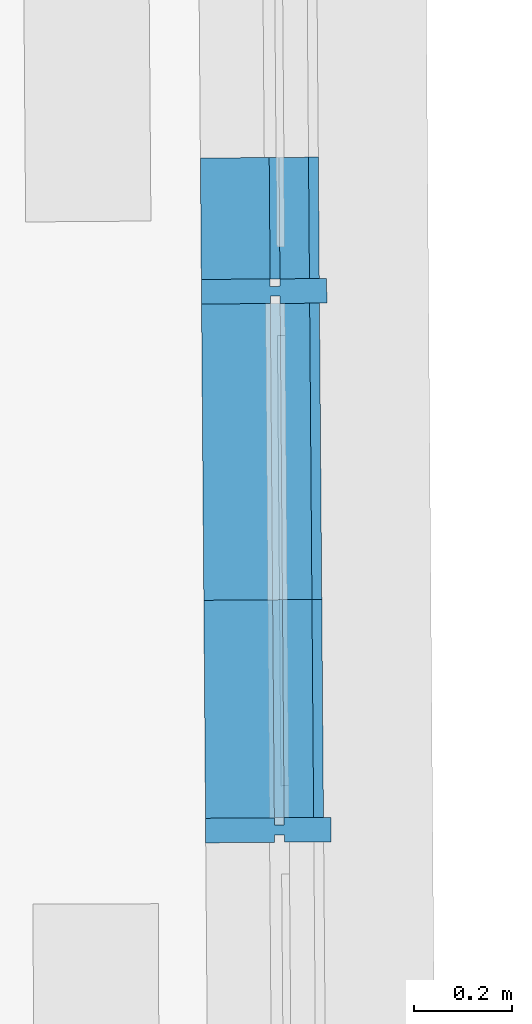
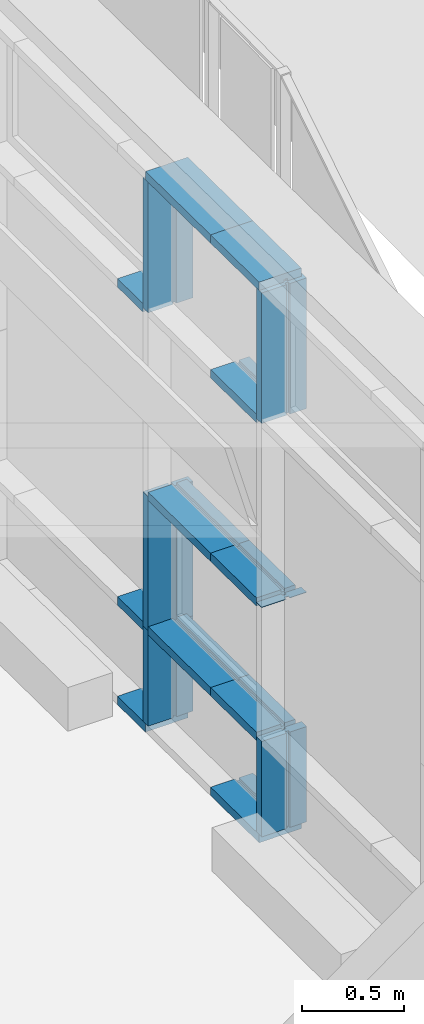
# One storey, part 120 of 158: 18 building element parts, 1 element without a shape of its own.
"""IFC2X3 building model written with IfcOpenShell, lengths in metres."""

from ifc_helpers import new_model, entity, si_unit, converted_unit, derived_unit, money_unit, direction, frame, origin_with_axes, place, context, subcontext, project, spatial, faceted_brep, material, type_object, element, aggregate, save


model = new_model("IFC2X3")

# Units and contexts
model_context = context("Model", 3, precision=1e-05, world=origin_with_axes(), true_north=direction((0.0, 1.0)))
body_context = subcontext(model_context, "Body", "Model", "MODEL_VIEW")
ifc_project = project(units=[si_unit("LENGTHUNIT", "METRE"), si_unit("AREAUNIT", "SQUARE_METRE"), si_unit("VOLUMEUNIT", "CUBIC_METRE"), converted_unit("PLANEANGLEUNIT", "DEGREE", entity("IfcPlaneAngleMeasure", 0.0174532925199), si_unit("PLANEANGLEUNIT", "RADIAN"), dimensions=[0, 0, 0, 0, 0, 0, 0]), money_unit("EUR"), converted_unit("TIMEUNIT", "Year", entity("IfcTimeMeasure", 31556926.0), si_unit("TIMEUNIT", "SECOND"), dimensions=[0, 0, 1, 0, 0, 0, 0]), si_unit("MASSUNIT", "GRAM", prefix="KILO"), si_unit("THERMODYNAMICTEMPERATUREUNIT", "DEGREE_CELSIUS"), si_unit("LUMINOUSINTENSITYUNIT", "LUMEN"), si_unit("ENERGYUNIT", "JOULE", prefix="MEGA"), derived_unit("THERMALCONDUCTANCEUNIT", [(si_unit("POWERUNIT", "WATT"), 1), (si_unit("LENGTHUNIT", "METRE"), -1), (si_unit("THERMODYNAMICTEMPERATUREUNIT", "KELVIN"), -1)]), derived_unit("SPECIFICHEATCAPACITYUNIT", [(si_unit("ENERGYUNIT", "JOULE"), 1), (si_unit("MASSUNIT", "GRAM", prefix="KILO"), -1), (si_unit("THERMODYNAMICTEMPERATUREUNIT", "KELVIN"), -1)]), derived_unit("MASSDENSITYUNIT", [(si_unit("MASSUNIT", "GRAM", prefix="KILO"), 1), (si_unit("VOLUMEUNIT", "CUBIC_METRE"), -1)])], contexts=[model_context])

# Site, building, storey
site_placement = place(None, origin_with_axes())
site = spatial("IfcSite", under=ifc_project, at=site_placement, Name="Gelände", CompositionType="ELEMENT")
building_placement = place(site_placement, origin_with_axes())
building = spatial("IfcBuilding", under=site, at=building_placement, Name="Gebäude", CompositionType="ELEMENT")
storey_placement = place(building_placement, origin_with_axes())
storey = spatial("IfcBuildingStorey", under=building, at=storey_placement, Name="ERDGESCHOSS", CompositionType="ELEMENT", Elevation=0.0)

# Proxy, building element parts
building_element_proxy_type = type_object("IfcBuildingElementProxyType", Name="Fassadentyp", PredefinedType="NOTDEFINED")
proxy_placement = place(storey_placement, frame((-15.5457352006, 40.9565245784, 1.34043905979), z_axis=(0.0, 0.0, 1.0), x_axis=(1.0, 0.0, 0.0)))
proxy = element("IfcBuildingElementProxy", 1, at=proxy_placement, inside=storey, type_object=building_element_proxy_type, Name="Fassade-002")
ifc_material = material(Name="53_Metall, Aluminium")
building_element_part_1_placement = place(proxy_placement, origin_with_axes())
building_element_part_1 = element("IfcBuildingElementPart", 2, at=building_element_part_1_placement, material=ifc_material, Name="53_Metall, Aluminium", context=body_context, shape_type="Brep", body=[
    faceted_brep([(0.0163156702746, -3.3820530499, 1.41999994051), (0.0363150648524, -3.38189743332, 1.41999994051), (0.0364317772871, -3.39689697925, 1.41999994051), (0.131428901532, -3.3961578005, 1.41999994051), (0.131039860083, -3.34615931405, 1.41999994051), (0.0360427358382, -3.34689849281, 1.41999994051), (0.0361594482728, -3.36189803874, 1.41999994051), (0.016160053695, -3.36205365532, 1.41999994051), (0.0160433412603, -3.34705410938, 1.41999994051), (-0.123952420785, -3.34814342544, 1.41999994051), (-0.123563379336, -3.39814191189, 1.41999994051), (0.0164323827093, -3.39705259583, 1.41999994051), (0.0163156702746, -3.3820530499, 0.619999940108), (0.0363150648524, -3.38189743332, 0.619999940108), (0.0364317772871, -3.39689697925, 0.619999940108), (0.131428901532, -3.3961578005, 0.619999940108), (0.131039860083, -3.34615931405, 0.619999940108), (0.0360427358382, -3.34689849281, 0.619999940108), (0.0361594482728, -3.36189803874, 0.619999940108), (0.016160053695, -3.36205365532, 0.619999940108), (0.0160433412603, -3.34705410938, 0.619999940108), (-0.123952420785, -3.34814342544, 0.619999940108), (-0.123563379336, -3.39814191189, 0.619999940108), (0.0164323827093, -3.39705259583, 0.619999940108)], [[[0, 1, 2, 3, 4, 5, 6, 7, 8, 9, 10, 11]], [[0, 12, 13, 1]], [[1, 13, 14, 2]], [[14, 15, 3, 2]], [[3, 15, 16, 4]], [[17, 5, 4, 16]], [[5, 17, 18, 6]], [[7, 6, 18, 19]], [[8, 7, 19, 20]], [[8, 20, 21, 9]], [[9, 21, 22, 10]], [[11, 10, 22, 23]], [[11, 23, 12, 0]], [[13, 12, 23, 22, 21, 20, 19, 18, 17, 16, 15, 14]]]),
])
building_element_part_2_placement = place(proxy_placement, origin_with_axes())
building_element_part_2 = element("IfcBuildingElementPart", 3, at=building_element_part_2_placement, material=ifc_material, Name="53_Metall, Aluminium", context=body_context, shape_type="Brep", body=[
    faceted_brep([(0.0211235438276, -3.99994711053, 0.60999994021), (0.0411229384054, -3.99979149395, 0.60999994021), (0.0411229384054, -3.99979149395, 0.59499994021), (0.101121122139, -3.99932464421, 0.59499994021), (0.101121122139, -3.99932464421, 0.64499994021), (0.0411229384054, -3.99979149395, 0.64499994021), (0.0411229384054, -3.99979149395, 0.62999994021), (0.0211235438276, -3.99994711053, 0.62999994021), (0.0211235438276, -3.99994711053, 0.64499994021), (-0.118872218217, -4.00103642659, 0.64499994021), (-0.118872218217, -4.00103642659, 0.59499994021), (0.0211235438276, -3.99994711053, 0.59499994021), (0.0164323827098, -3.3970525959, 0.60999994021), (0.0364317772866, -3.39689697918, 0.60999994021), (0.0364317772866, -3.39689697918, 0.59499994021), (0.0964299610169, -3.39643012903, 0.59499994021), (0.0964299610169, -3.39643012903, 0.64499994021), (0.0364317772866, -3.39689697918, 0.64499994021), (0.0364317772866, -3.39689697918, 0.62999994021), (0.0164323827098, -3.3970525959, 0.62999994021), (0.0164323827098, -3.3970525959, 0.64499994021), (-0.123563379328, -3.39814191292, 0.64499994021), (-0.123563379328, -3.39814191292, 0.59499994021), (0.0164323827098, -3.3970525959, 0.59499994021)], [[[0, 1, 2, 3, 4, 5, 6, 7, 8, 9, 10, 11]], [[0, 12, 13, 1]], [[1, 13, 14, 2]], [[14, 15, 3, 2]], [[4, 3, 15, 16]], [[17, 5, 4, 16]], [[5, 17, 18, 6]], [[7, 6, 18, 19]], [[8, 7, 19, 20]], [[8, 20, 21, 9]], [[10, 9, 21, 22]], [[11, 10, 22, 23]], [[11, 23, 12, 0]], [[13, 12, 23, 22, 21, 20, 19, 18, 17, 16, 15, 14]]]),
])
building_element_part_3_placement = place(proxy_placement, origin_with_axes())
building_element_part_3 = element("IfcBuildingElementPart", 4, at=building_element_part_3_placement, material=ifc_material, Name="53_Metall, Aluminium", context=body_context, shape_type="Brep", body=[
    faceted_brep([(0.0163156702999, -3.38205305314, 1.42310934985), (0.0363150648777, -3.38189743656, 1.42310934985), (0.0364317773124, -3.3968969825, 1.42310934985), (0.131428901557, -3.39615780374, 1.42310934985), (0.131039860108, -3.3461593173, 1.42310934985), (0.0360427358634, -3.34689849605, 1.42310934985), (0.0361594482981, -3.36189804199, 1.42310934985), (0.0161600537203, -3.36205365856, 1.42310934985), (0.0160433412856, -3.34705411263, 1.42310934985), (-0.123952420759, -3.34814342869, 1.42310934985), (-0.12356337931, -3.39814191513, 1.42310934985), (0.0164323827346, -3.39705259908, 1.42310934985), (0.0163156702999, -3.38205305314, 1.41999993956), (0.0363150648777, -3.38189743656, 1.41999993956), (0.0364317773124, -3.3968969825, 1.41999993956), (0.131428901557, -3.39615780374, 1.41999993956), (0.131039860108, -3.3461593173, 1.41999993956), (0.0360427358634, -3.34689849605, 1.41999993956), (0.0361594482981, -3.36189804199, 1.41999993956), (0.0161600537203, -3.36205365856, 1.41999993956), (0.0160433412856, -3.34705411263, 1.41999993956), (-0.123952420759, -3.34814342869, 1.41999993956), (-0.12356337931, -3.39814191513, 1.41999993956), (0.0164323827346, -3.39705259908, 1.41999993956)], [[[0, 1, 2, 3, 4, 5, 6, 7, 8, 9, 10, 11]], [[0, 12, 13, 1]], [[1, 13, 14, 2]], [[14, 15, 3, 2]], [[3, 15, 16, 4]], [[17, 5, 4, 16]], [[5, 17, 18, 6]], [[7, 6, 18, 19]], [[8, 7, 19, 20]], [[8, 20, 21, 9]], [[9, 21, 22, 10]], [[11, 10, 22, 23]], [[11, 23, 12, 0]], [[13, 12, 23, 22, 21, 20, 19, 18, 17, 16, 15, 14]]]),
])
building_element_part_4_placement = place(proxy_placement, origin_with_axes())
building_element_part_4 = element("IfcBuildingElementPart", 5, at=building_element_part_4_placement, material=ifc_material, Name="53_Metall, Aluminium", context=body_context, shape_type="Brep", body=[
    faceted_brep([(0.0160433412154, -3.34705410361, 2.50999994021), (0.0360427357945, -3.34689848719, 2.50999994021), (0.0360427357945, -3.34689848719, 2.49499994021), (0.0960409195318, -3.34643163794, 2.49499994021), (0.0960409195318, -3.34643163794, 2.54499994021), (0.0360427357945, -3.34689848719, 2.54499994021), (0.0360427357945, -3.34689848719, 2.52999994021), (0.0160433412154, -3.34705410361, 2.52999994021), (0.0160433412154, -3.34705410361, 2.54499994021), (-0.123952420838, -3.34814341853, 2.54499994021), (-0.123952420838, -3.34814341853, 2.49499994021), (0.0160433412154, -3.34705410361, 2.49499994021), (0.0141207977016, -3.09997434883, 2.50999994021), (0.0341201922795, -3.09981873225, 2.50999994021), (0.0341201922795, -3.09981873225, 2.49499994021), (0.094118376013, -3.09935188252, 2.49499994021), (0.094118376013, -3.09935188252, 2.54499994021), (0.0341201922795, -3.09981873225, 2.54499994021), (0.0341201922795, -3.09981873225, 2.52999994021), (0.0141207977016, -3.09997434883, 2.52999994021), (0.0141207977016, -3.09997434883, 2.54499994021), (-0.125874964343, -3.10106366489, 2.54499994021), (-0.125874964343, -3.10106366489, 2.49499994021), (0.0141207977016, -3.09997434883, 2.49499994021)], [[[0, 1, 2, 3, 4, 5, 6, 7, 8, 9, 10, 11]], [[0, 12, 13, 1]], [[1, 13, 14, 2]], [[14, 15, 3, 2]], [[3, 15, 16, 4]], [[17, 5, 4, 16]], [[5, 17, 18, 6]], [[7, 6, 18, 19]], [[8, 7, 19, 20]], [[8, 20, 21, 9]], [[9, 21, 22, 10]], [[11, 10, 22, 23]], [[11, 23, 12, 0]], [[13, 12, 23, 22, 21, 20, 19, 18, 17, 16, 15, 14]]]),
])
building_element_part_5_placement = place(proxy_placement, origin_with_axes())
building_element_part_5 = element("IfcBuildingElementPart", 6, at=building_element_part_5_placement, material=ifc_material, Name="53_Metall, Aluminium", context=body_context, shape_type="Brep", body=[
    faceted_brep([(0.0211235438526, -3.99994711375, 1.41310935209), (0.0411229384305, -3.99979149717, 1.41310935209), (0.0411229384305, -3.99979149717, 1.39810935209), (0.101121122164, -3.99932464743, 1.39810935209), (0.101121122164, -3.99932464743, 1.44810935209), (0.0411229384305, -3.99979149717, 1.44810935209), (0.0411229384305, -3.99979149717, 1.43310935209), (0.0211235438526, -3.99994711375, 1.43310935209), (0.0211235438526, -3.99994711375, 1.44810935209), (-0.118872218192, -4.00103642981, 1.44810935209), (-0.118872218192, -4.00103642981, 1.39810935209), (0.0211235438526, -3.99994711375, 1.39810935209), (0.0164323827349, -3.39705259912, 1.41310935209), (0.0364317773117, -3.3968969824, 1.41310935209), (0.0364317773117, -3.3968969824, 1.39810935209), (0.096429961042, -3.39643013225, 1.39810935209), (0.096429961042, -3.39643013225, 1.44810935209), (0.0364317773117, -3.3968969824, 1.44810935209), (0.0364317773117, -3.3968969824, 1.43310935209), (0.0164323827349, -3.39705259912, 1.43310935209), (0.0164323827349, -3.39705259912, 1.44810935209), (-0.123563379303, -3.39814191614, 1.44810935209), (-0.123563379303, -3.39814191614, 1.39810935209), (0.0164323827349, -3.39705259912, 1.39810935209)], [[[0, 1, 2, 3, 4, 5, 6, 7, 8, 9, 10, 11]], [[0, 12, 13, 1]], [[1, 13, 14, 2]], [[14, 15, 3, 2]], [[4, 3, 15, 16]], [[17, 5, 4, 16]], [[5, 17, 18, 6]], [[7, 6, 18, 19]], [[8, 7, 19, 20]], [[8, 20, 21, 9]], [[10, 9, 21, 22]], [[11, 10, 22, 23]], [[11, 23, 12, 0]], [[13, 12, 23, 22, 21, 20, 19, 18, 17, 16, 15, 14]]]),
])
building_element_part_6_placement = place(proxy_placement, origin_with_axes())
building_element_part_6 = element("IfcBuildingElementPart", 7, at=building_element_part_6_placement, material=ifc_material, Name="53_Metall, Aluminium", context=body_context, shape_type="Brep", body=[
    faceted_brep([(0.0245747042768, -4.44348031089, 2.50999994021), (0.0445740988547, -4.44332469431, 2.50999994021), (0.0445740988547, -4.44332469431, 2.49499994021), (0.104572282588, -4.44285784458, 2.49499994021), (0.104572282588, -4.44285784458, 2.54499994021), (0.0445740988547, -4.44332469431, 2.54499994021), (0.0445740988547, -4.44332469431, 2.52999994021), (0.0245747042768, -4.44348031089, 2.52999994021), (0.0245747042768, -4.44348031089, 2.54499994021), (-0.115421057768, -4.44456962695, 2.54499994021), (-0.115421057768, -4.44456962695, 2.49499994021), (0.0245747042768, -4.44348031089, 2.49499994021), (0.0211235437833, -3.99994710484, 2.50999994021), (0.0411229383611, -3.99979148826, 2.50999994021), (0.0411229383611, -3.99979148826, 2.49499994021), (0.101121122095, -3.99932463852, 2.49499994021), (0.101121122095, -3.99932463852, 2.54499994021), (0.0411229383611, -3.99979148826, 2.54499994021), (0.0411229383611, -3.99979148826, 2.52999994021), (0.0211235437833, -3.99994710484, 2.52999994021), (0.0211235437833, -3.99994710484, 2.54499994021), (-0.118872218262, -4.00103642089, 2.54499994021), (-0.118872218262, -4.00103642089, 2.49499994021), (0.0211235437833, -3.99994710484, 2.49499994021)], [[[0, 1, 2, 3, 4, 5, 6, 7, 8, 9, 10, 11]], [[0, 12, 13, 1]], [[1, 13, 14, 2]], [[14, 15, 3, 2]], [[3, 15, 16, 4]], [[17, 5, 4, 16]], [[5, 17, 18, 6]], [[7, 6, 18, 19]], [[8, 7, 19, 20]], [[8, 20, 21, 9]], [[9, 21, 22, 10]], [[11, 10, 22, 23]], [[11, 23, 12, 0]], [[13, 12, 23, 22, 21, 20, 19, 18, 17, 16, 15, 14]]]),
])
building_element_part_7_placement = place(proxy_placement, origin_with_axes())
building_element_part_7 = element("IfcBuildingElementPart", 8, at=building_element_part_7_placement, material=ifc_material, Name="53_Metall, Aluminium", context=body_context, shape_type="Brep", body=[
    faceted_brep([(0.0248470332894, -4.47847925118, 1.42310934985), (0.0448464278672, -4.4783236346, 1.42310934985), (0.0449631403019, -4.49332318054, 1.42310934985), (0.139960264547, -4.49258400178, 1.42310934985), (0.139571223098, -4.44258551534, 1.42310934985), (0.0445740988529, -4.44332469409, 1.42310934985), (0.0446908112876, -4.45832424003, 1.42310934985), (0.0246914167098, -4.45847985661, 1.42310934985), (0.0245747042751, -4.44348031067, 1.42310934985), (-0.11542105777, -4.44456962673, 1.42310934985), (-0.115032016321, -4.49456811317, 1.42310934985), (0.0249637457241, -4.49347879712, 1.42310934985), (0.0248470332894, -4.47847925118, 1.41999993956), (0.0448464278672, -4.4783236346, 1.41999993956), (0.0449631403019, -4.49332318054, 1.41999993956), (0.139960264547, -4.49258400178, 1.41999993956), (0.139571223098, -4.44258551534, 1.41999993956), (0.0445740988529, -4.44332469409, 1.41999993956), (0.0446908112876, -4.45832424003, 1.41999993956), (0.0246914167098, -4.45847985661, 1.41999993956), (0.0245747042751, -4.44348031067, 1.41999993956), (-0.11542105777, -4.44456962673, 1.41999993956), (-0.115032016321, -4.49456811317, 1.41999993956), (0.0249637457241, -4.49347879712, 1.41999993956)], [[[0, 1, 2, 3, 4, 5, 6, 7, 8, 9, 10, 11]], [[0, 12, 13, 1]], [[1, 13, 14, 2]], [[14, 15, 3, 2]], [[3, 15, 16, 4]], [[17, 5, 4, 16]], [[5, 17, 18, 6]], [[7, 6, 18, 19]], [[8, 7, 19, 20]], [[8, 20, 21, 9]], [[9, 21, 22, 10]], [[11, 10, 22, 23]], [[11, 23, 12, 0]], [[13, 12, 23, 22, 21, 20, 19, 18, 17, 16, 15, 14]]]),
])
building_element_part_8_placement = place(proxy_placement, origin_with_axes())
building_element_part_8 = element("IfcBuildingElementPart", 9, at=building_element_part_8_placement, material=ifc_material, Name="53_Metall, Aluminium", context=body_context, shape_type="Brep", body=[
    faceted_brep([(0.0163156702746, -3.3820530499, 0.619999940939), (0.0363150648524, -3.38189743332, 0.619999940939), (0.0364317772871, -3.39689697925, 0.619999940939), (0.131428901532, -3.3961578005, 0.619999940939), (0.131039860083, -3.34615931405, 0.619999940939), (0.0360427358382, -3.34689849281, 0.619999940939), (0.0361594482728, -3.36189803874, 0.619999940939), (0.016160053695, -3.36205365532, 0.619999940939), (0.0160433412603, -3.34705410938, 0.619999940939), (-0.123952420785, -3.34814342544, 0.619999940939), (-0.123563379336, -3.39814191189, 0.619999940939), (0.0164323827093, -3.39705259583, 0.619999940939), (0.0163156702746, -3.3820530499, 0.0500000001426), (0.0363150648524, -3.38189743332, 0.0499999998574), (0.0364317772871, -3.39689697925, 0.0499999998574), (0.131428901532, -3.3961578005, 0.0499999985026), (0.131039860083, -3.34615931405, 0.0499999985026), (0.0360427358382, -3.34689849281, 0.0499999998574), (0.0361594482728, -3.36189803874, 0.0499999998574), (0.016160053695, -3.36205365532, 0.0500000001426), (0.0160433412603, -3.34705410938, 0.0500000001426), (-0.123952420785, -3.34814342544, 0.0500000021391), (-0.123563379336, -3.39814191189, 0.0500000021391), (0.0164323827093, -3.39705259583, 0.0500000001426)], [[[0, 1, 2, 3, 4, 5, 6, 7, 8, 9, 10, 11]], [[0, 12, 13, 1]], [[1, 13, 14, 2]], [[14, 15, 3, 2]], [[4, 3, 15, 16]], [[17, 5, 4, 16]], [[5, 17, 18, 6]], [[7, 6, 18, 19]], [[8, 7, 19, 20]], [[8, 20, 21, 9]], [[10, 9, 21, 22]], [[11, 10, 22, 23]], [[11, 23, 12, 0]], [[13, 12, 23, 22, 21, 20, 19, 18, 17, 16, 15, 14]]]),
])
building_element_part_9_placement = place(proxy_placement, origin_with_axes())
building_element_part_9 = element("IfcBuildingElementPart", 10, at=building_element_part_9_placement, material=ifc_material, Name="53_Metall, Aluminium", context=body_context, shape_type="Brep", body=[
    faceted_brep([(0.0247692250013, -4.46847955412, 0.035), (0.0247692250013, -4.46847955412, 0.05), (-0.115226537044, -4.46956887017, 0.05), (-0.115226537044, -4.46956887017, 0.0), (0.124766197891, -4.46770147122, 0.0), (0.124766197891, -4.46770147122, 0.05), (0.0447686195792, -4.46832393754, 0.05), (0.0447686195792, -4.46832393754, 0.035), (0.0211235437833, -3.99994710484, 0.035), (0.0211235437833, -3.99994710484, 0.05), (-0.118872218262, -4.00103642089, 0.05), (-0.118872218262, -4.00103642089, 0.0), (0.121120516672, -3.99916902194, 0.0), (0.121120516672, -3.99916902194, 0.05), (0.0411229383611, -3.99979148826, 0.05), (0.0411229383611, -3.99979148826, 0.035)], [[[0, 1, 2, 3, 4, 5, 6, 7]], [[0, 8, 9, 1]], [[9, 10, 2, 1]], [[10, 11, 3, 2]], [[11, 12, 4, 3]], [[12, 13, 5, 4]], [[6, 5, 13, 14]], [[14, 15, 7, 6]], [[7, 15, 8, 0]], [[8, 15, 14, 13, 12, 11, 10, 9]]]),
])
building_element_part_10_placement = place(proxy_placement, origin_with_axes())
building_element_part_10 = element("IfcBuildingElementPart", 11, at=building_element_part_10_placement, material=ifc_material, Name="53_Metall, Aluminium", context=body_context, shape_type="Brep", body=[
    faceted_brep([(0.0248470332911, -4.4784792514, 0.619999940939), (0.0448464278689, -4.47832363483, 0.619999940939), (0.0449631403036, -4.49332318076, 0.619999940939), (0.139960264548, -4.49258400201, 0.619999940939), (0.139571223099, -4.44258551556, 0.619999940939), (0.0445740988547, -4.44332469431, 0.619999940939), (0.0446908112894, -4.45832424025, 0.619999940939), (0.0246914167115, -4.45847985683, 0.619999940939), (0.0245747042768, -4.44348031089, 0.619999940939), (-0.115421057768, -4.44456962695, 0.619999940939), (-0.115032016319, -4.4945681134, 0.619999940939), (0.0249637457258, -4.49347879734, 0.619999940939), (0.0248470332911, -4.4784792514, 0.0500000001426), (0.0448464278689, -4.47832363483, 0.0499999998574), (0.0449631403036, -4.49332318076, 0.0499999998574), (0.139960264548, -4.49258400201, 0.0499999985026), (0.139571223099, -4.44258551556, 0.0499999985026), (0.0445740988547, -4.44332469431, 0.0499999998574), (0.0446908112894, -4.45832424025, 0.0499999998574), (0.0246914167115, -4.45847985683, 0.0500000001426), (0.0245747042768, -4.44348031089, 0.0500000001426), (-0.115421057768, -4.44456962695, 0.0500000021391), (-0.115032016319, -4.4945681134, 0.0500000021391), (0.0249637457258, -4.49347879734, 0.0500000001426)], [[[0, 1, 2, 3, 4, 5, 6, 7, 8, 9, 10, 11]], [[0, 12, 13, 1]], [[1, 13, 14, 2]], [[14, 15, 3, 2]], [[4, 3, 15, 16]], [[17, 5, 4, 16]], [[5, 17, 18, 6]], [[7, 6, 18, 19]], [[8, 7, 19, 20]], [[8, 20, 21, 9]], [[10, 9, 21, 22]], [[11, 10, 22, 23]], [[11, 23, 12, 0]], [[13, 12, 23, 22, 21, 20, 19, 18, 17, 16, 15, 14]]]),
])
building_element_part_11_placement = place(proxy_placement, origin_with_axes())
building_element_part_11 = element("IfcBuildingElementPart", 12, at=building_element_part_11_placement, material=ifc_material, Name="53_Metall, Aluminium", context=body_context, shape_type="Brep", body=[
    faceted_brep([(0.0245747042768, -4.44348031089, 0.60999994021), (0.0445740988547, -4.44332469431, 0.60999994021), (0.0445740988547, -4.44332469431, 0.59499994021), (0.104572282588, -4.44285784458, 0.59499994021), (0.104572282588, -4.44285784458, 0.64499994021), (0.0445740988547, -4.44332469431, 0.64499994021), (0.0445740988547, -4.44332469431, 0.62999994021), (0.0245747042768, -4.44348031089, 0.62999994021), (0.0245747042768, -4.44348031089, 0.64499994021), (-0.115421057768, -4.44456962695, 0.64499994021), (-0.115421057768, -4.44456962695, 0.59499994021), (0.0245747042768, -4.44348031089, 0.59499994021), (0.0211235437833, -3.99994710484, 0.60999994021), (0.0411229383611, -3.99979148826, 0.60999994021), (0.0411229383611, -3.99979148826, 0.59499994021), (0.101121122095, -3.99932463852, 0.59499994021), (0.101121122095, -3.99932463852, 0.64499994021), (0.0411229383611, -3.99979148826, 0.64499994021), (0.0411229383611, -3.99979148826, 0.62999994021), (0.0211235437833, -3.99994710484, 0.62999994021), (0.0211235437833, -3.99994710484, 0.64499994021), (-0.118872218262, -4.00103642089, 0.64499994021), (-0.118872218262, -4.00103642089, 0.59499994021), (0.0211235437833, -3.99994710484, 0.59499994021)], [[[0, 1, 2, 3, 4, 5, 6, 7, 8, 9, 10, 11]], [[0, 12, 13, 1]], [[1, 13, 14, 2]], [[14, 15, 3, 2]], [[3, 15, 16, 4]], [[17, 5, 4, 16]], [[5, 17, 18, 6]], [[7, 6, 18, 19]], [[8, 7, 19, 20]], [[8, 20, 21, 9]], [[9, 21, 22, 10]], [[11, 10, 22, 23]], [[11, 23, 12, 0]], [[13, 12, 23, 22, 21, 20, 19, 18, 17, 16, 15, 14]]]),
])
building_element_part_12_placement = place(proxy_placement, origin_with_axes())
building_element_part_12 = element("IfcBuildingElementPart", 13, at=building_element_part_12_placement, material=ifc_material, Name="53_Metall, Aluminium", context=body_context, shape_type="Brep", body=[
    faceted_brep([(0.0163156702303, -3.3820530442, 3.29999987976), (0.0363150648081, -3.38189742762, 3.29999987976), (0.0364317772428, -3.39689697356, 3.29999987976), (0.131428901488, -3.3961577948, 3.29999987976), (0.131039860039, -3.34615930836, 3.29999987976), (0.0360427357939, -3.34689848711, 3.29999987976), (0.0361594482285, -3.36189803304, 3.29999987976), (0.0161600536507, -3.36205364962, 3.29999987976), (0.016043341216, -3.34705410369, 3.29999987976), (-0.123952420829, -3.34814341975, 3.29999987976), (-0.12356337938, -3.39814190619, 3.29999987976), (0.016432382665, -3.39705259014, 3.29999987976), (0.0163156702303, -3.3820530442, 2.5199999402), (0.0363150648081, -3.38189742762, 2.5199999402), (0.0364317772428, -3.39689697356, 2.5199999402), (0.131428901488, -3.3961577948, 2.5199999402), (0.131039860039, -3.34615930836, 2.5199999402), (0.0360427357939, -3.34689848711, 2.5199999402), (0.0361594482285, -3.36189803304, 2.5199999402), (0.0161600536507, -3.36205364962, 2.5199999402), (0.016043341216, -3.34705410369, 2.5199999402), (-0.123952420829, -3.34814341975, 2.5199999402), (-0.12356337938, -3.39814190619, 2.5199999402), (0.016432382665, -3.39705259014, 2.5199999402)], [[[0, 1, 2, 3, 4, 5, 6, 7, 8, 9, 10, 11]], [[0, 12, 13, 1]], [[1, 13, 14, 2]], [[14, 15, 3, 2]], [[3, 15, 16, 4]], [[17, 5, 4, 16]], [[5, 17, 18, 6]], [[7, 6, 18, 19]], [[8, 7, 19, 20]], [[8, 20, 21, 9]], [[9, 21, 22, 10]], [[11, 10, 22, 23]], [[11, 23, 12, 0]], [[13, 12, 23, 22, 21, 20, 19, 18, 17, 16, 15, 14]]]),
])
building_element_part_13_placement = place(proxy_placement, origin_with_axes())
building_element_part_13 = element("IfcBuildingElementPart", 14, at=building_element_part_13_placement, material=ifc_material, Name="53_Metall, Aluminium", context=body_context, shape_type="Brep", body=[
    faceted_brep([(0.0245747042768, -4.44348031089, 1.41310934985), (0.0445740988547, -4.44332469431, 1.41310934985), (0.0445740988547, -4.44332469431, 1.39810934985), (0.104572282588, -4.44285784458, 1.39810934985), (0.104572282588, -4.44285784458, 1.44810934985), (0.0445740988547, -4.44332469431, 1.44810934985), (0.0445740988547, -4.44332469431, 1.43310934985), (0.0245747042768, -4.44348031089, 1.43310934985), (0.0245747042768, -4.44348031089, 1.44810934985), (-0.115421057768, -4.44456962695, 1.44810934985), (-0.115421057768, -4.44456962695, 1.39810934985), (0.0245747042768, -4.44348031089, 1.39810934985), (0.0211235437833, -3.99994710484, 1.41310934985), (0.0411229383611, -3.99979148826, 1.41310934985), (0.0411229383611, -3.99979148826, 1.39810934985), (0.101121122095, -3.99932463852, 1.39810934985), (0.101121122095, -3.99932463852, 1.44810934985), (0.0411229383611, -3.99979148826, 1.44810934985), (0.0411229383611, -3.99979148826, 1.43310934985), (0.0211235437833, -3.99994710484, 1.43310934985), (0.0211235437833, -3.99994710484, 1.44810934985), (-0.118872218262, -4.00103642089, 1.44810934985), (-0.118872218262, -4.00103642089, 1.39810934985), (0.0211235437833, -3.99994710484, 1.39810934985)], [[[0, 1, 2, 3, 4, 5, 6, 7, 8, 9, 10, 11]], [[0, 12, 13, 1]], [[1, 13, 14, 2]], [[14, 15, 3, 2]], [[3, 15, 16, 4]], [[17, 5, 4, 16]], [[5, 17, 18, 6]], [[7, 6, 18, 19]], [[8, 7, 19, 20]], [[8, 20, 21, 9]], [[9, 21, 22, 10]], [[11, 10, 22, 23]], [[11, 23, 12, 0]], [[13, 12, 23, 22, 21, 20, 19, 18, 17, 16, 15, 14]]]),
])
building_element_part_14_placement = place(proxy_placement, origin_with_axes())
building_element_part_14 = element("IfcBuildingElementPart", 15, at=building_element_part_14_placement, material=ifc_material, Name="53_Metall, Aluminium", context=body_context, shape_type="Brep", body=[
    faceted_brep([(0.0162378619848, -3.37205335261, 0.035), (0.0162378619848, -3.37205335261, 0.05), (-0.12375790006, -3.37314266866, 0.05), (-0.12375790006, -3.37314266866, 0.0), (0.116234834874, -3.37127526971, 0.0), (0.116234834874, -3.37127526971, 0.05), (0.0362372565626, -3.37189773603, 0.05), (0.0362372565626, -3.37189773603, 0.035), (0.0141207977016, -3.09997434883, 0.035), (0.0141207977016, -3.09997434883, 0.05), (-0.125874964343, -3.10106366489, 0.05), (-0.125874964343, -3.10106366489, 0.0), (0.114117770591, -3.09919626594, 0.0), (0.114117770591, -3.09919626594, 0.05), (0.0341201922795, -3.09981873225, 0.05), (0.0341201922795, -3.09981873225, 0.035)], [[[0, 1, 2, 3, 4, 5, 6, 7]], [[0, 8, 9, 1]], [[9, 10, 2, 1]], [[10, 11, 3, 2]], [[11, 12, 4, 3]], [[12, 13, 5, 4]], [[6, 5, 13, 14]], [[14, 15, 7, 6]], [[7, 15, 8, 0]], [[8, 15, 14, 13, 12, 11, 10, 9]]]),
])
building_element_part_15_placement = place(proxy_placement, origin_with_axes())
building_element_part_15 = element("IfcBuildingElementPart", 16, at=building_element_part_15_placement, material=ifc_material, Name="53_Metall, Aluminium", context=body_context, shape_type="Brep", body=[
    faceted_brep([(0.0160433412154, -3.34705410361, 0.60999994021), (0.0360427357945, -3.34689848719, 0.60999994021), (0.0360427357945, -3.34689848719, 0.59499994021), (0.0960409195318, -3.34643163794, 0.59499994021), (0.0960409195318, -3.34643163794, 0.64499994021), (0.0360427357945, -3.34689848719, 0.64499994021), (0.0360427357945, -3.34689848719, 0.62999994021), (0.0160433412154, -3.34705410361, 0.62999994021), (0.0160433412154, -3.34705410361, 0.64499994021), (-0.123952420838, -3.34814341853, 0.64499994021), (-0.123952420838, -3.34814341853, 0.59499994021), (0.0160433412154, -3.34705410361, 0.59499994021), (0.0141207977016, -3.09997434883, 0.60999994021), (0.0341201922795, -3.09981873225, 0.60999994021), (0.0341201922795, -3.09981873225, 0.59499994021), (0.094118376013, -3.09935188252, 0.59499994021), (0.094118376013, -3.09935188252, 0.64499994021), (0.0341201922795, -3.09981873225, 0.64499994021), (0.0341201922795, -3.09981873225, 0.62999994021), (0.0141207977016, -3.09997434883, 0.62999994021), (0.0141207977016, -3.09997434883, 0.64499994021), (-0.125874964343, -3.10106366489, 0.64499994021), (-0.125874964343, -3.10106366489, 0.59499994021), (0.0141207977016, -3.09997434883, 0.59499994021)], [[[0, 1, 2, 3, 4, 5, 6, 7, 8, 9, 10, 11]], [[0, 12, 13, 1]], [[1, 13, 14, 2]], [[14, 15, 3, 2]], [[3, 15, 16, 4]], [[17, 5, 4, 16]], [[5, 17, 18, 6]], [[7, 6, 18, 19]], [[8, 7, 19, 20]], [[8, 20, 21, 9]], [[9, 21, 22, 10]], [[11, 10, 22, 23]], [[11, 23, 12, 0]], [[13, 12, 23, 22, 21, 20, 19, 18, 17, 16, 15, 14]]]),
])
building_element_part_16_placement = place(proxy_placement, origin_with_axes())
building_element_part_16 = element("IfcBuildingElementPart", 17, at=building_element_part_16_placement, material=ifc_material, Name="53_Metall, Aluminium", context=body_context, shape_type="Brep", body=[
    faceted_brep([(0.0247692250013, -4.46847955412, 3.31499987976), (0.0447686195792, -4.46832393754, 3.31499987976), (0.0447686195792, -4.46832393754, 3.29999987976), (0.124766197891, -4.46770147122, 3.29999987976), (0.124766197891, -4.46770147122, 3.34999987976), (-0.115226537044, -4.46956887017, 3.34999987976), (-0.115226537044, -4.46956887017, 3.29999987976), (0.0247692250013, -4.46847955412, 3.29999987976), (0.0211235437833, -3.99994710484, 3.31499987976), (0.0411229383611, -3.99979148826, 3.31499987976), (0.0411229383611, -3.99979148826, 3.29999987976), (0.121120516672, -3.99916902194, 3.29999987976), (0.121120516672, -3.99916902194, 3.34999987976), (-0.118872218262, -4.00103642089, 3.34999987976), (-0.118872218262, -4.00103642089, 3.29999987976), (0.0211235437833, -3.99994710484, 3.29999987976)], [[[0, 1, 2, 3, 4, 5, 6, 7]], [[1, 0, 8, 9]], [[10, 2, 1, 9]], [[2, 10, 11, 3]], [[12, 4, 3, 11]], [[13, 5, 4, 12]], [[14, 6, 5, 13]], [[15, 7, 6, 14]], [[0, 7, 15, 8]], [[8, 15, 14, 13, 12, 11, 10, 9]]]),
])
building_element_part_17_placement = place(proxy_placement, origin_with_axes())
building_element_part_17 = element("IfcBuildingElementPart", 18, at=building_element_part_17_placement, material=ifc_material, Name="53_Metall, Aluminium", context=body_context, shape_type="Brep", body=[
    faceted_brep([(0.0248470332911, -4.4784792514, 3.29999987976), (0.0448464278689, -4.47832363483, 3.29999987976), (0.0449631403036, -4.49332318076, 3.29999987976), (0.139960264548, -4.49258400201, 3.29999987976), (0.139571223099, -4.44258551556, 3.29999987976), (0.0445740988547, -4.44332469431, 3.29999987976), (0.0446908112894, -4.45832424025, 3.29999987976), (0.0246914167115, -4.45847985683, 3.29999987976), (0.0245747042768, -4.44348031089, 3.29999987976), (-0.115421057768, -4.44456962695, 3.29999987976), (-0.115032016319, -4.4945681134, 3.29999987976), (0.0249637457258, -4.49347879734, 3.29999987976), (0.0248470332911, -4.4784792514, 2.5199999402), (0.0448464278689, -4.47832363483, 2.5199999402), (0.0449631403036, -4.49332318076, 2.5199999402), (0.139960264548, -4.49258400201, 2.5199999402), (0.139571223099, -4.44258551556, 2.5199999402), (0.0445740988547, -4.44332469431, 2.5199999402), (0.0446908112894, -4.45832424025, 2.5199999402), (0.0246914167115, -4.45847985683, 2.5199999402), (0.0245747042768, -4.44348031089, 2.5199999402), (-0.115421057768, -4.44456962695, 2.5199999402), (-0.115032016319, -4.4945681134, 2.5199999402), (0.0249637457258, -4.49347879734, 2.5199999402)], [[[0, 1, 2, 3, 4, 5, 6, 7, 8, 9, 10, 11]], [[0, 12, 13, 1]], [[1, 13, 14, 2]], [[14, 15, 3, 2]], [[3, 15, 16, 4]], [[17, 5, 4, 16]], [[5, 17, 18, 6]], [[7, 6, 18, 19]], [[8, 7, 19, 20]], [[8, 20, 21, 9]], [[9, 21, 22, 10]], [[11, 10, 22, 23]], [[11, 23, 12, 0]], [[13, 12, 23, 22, 21, 20, 19, 18, 17, 16, 15, 14]]]),
])
building_element_part_18_placement = place(proxy_placement, origin_with_axes())
building_element_part_18 = element("IfcBuildingElementPart", 19, at=building_element_part_18_placement, material=ifc_material, Name="53_Metall, Aluminium", context=body_context, shape_type="Brep", body=[
    faceted_brep([(0.0211235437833, -3.99994710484, 3.31499987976), (0.0411229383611, -3.99979148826, 3.31499987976), (0.0411229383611, -3.99979148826, 3.29999987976), (0.121120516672, -3.99916902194, 3.29999987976), (0.121120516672, -3.99916902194, 3.34999987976), (-0.118872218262, -4.00103642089, 3.34999987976), (-0.118872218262, -4.00103642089, 3.29999987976), (0.0211235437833, -3.99994710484, 3.29999987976), (0.0162378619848, -3.37205335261, 3.31499987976), (0.0362372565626, -3.37189773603, 3.31499987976), (0.0362372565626, -3.37189773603, 3.29999987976), (0.116234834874, -3.37127526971, 3.29999987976), (0.116234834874, -3.37127526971, 3.34999987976), (-0.12375790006, -3.37314266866, 3.34999987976), (-0.12375790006, -3.37314266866, 3.29999987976), (0.0162378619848, -3.37205335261, 3.29999987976)], [[[0, 1, 2, 3, 4, 5, 6, 7]], [[1, 0, 8, 9]], [[10, 2, 1, 9]], [[2, 10, 11, 3]], [[12, 4, 3, 11]], [[13, 5, 4, 12]], [[14, 6, 5, 13]], [[15, 7, 6, 14]], [[0, 7, 15, 8]], [[8, 15, 14, 13, 12, 11, 10, 9]]]),
])
aggregate(proxy, [building_element_part_1, building_element_part_2, building_element_part_3, building_element_part_4, building_element_part_5, building_element_part_6, building_element_part_7, building_element_part_8, building_element_part_9, building_element_part_10, building_element_part_11, building_element_part_12, building_element_part_13, building_element_part_14, building_element_part_15, building_element_part_16, building_element_part_17, building_element_part_18])

save(model, "model.ifc")
